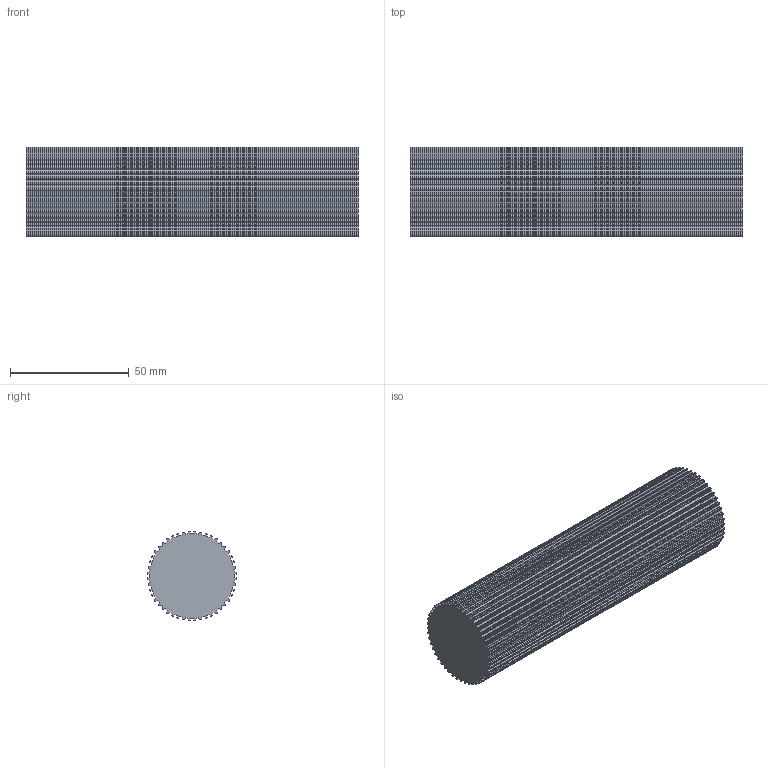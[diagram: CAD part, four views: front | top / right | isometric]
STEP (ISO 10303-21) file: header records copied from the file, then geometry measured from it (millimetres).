
FILE_DESCRIPTION( ( 'STEP AP214' ), '1' );
FILE_NAME( 'C:/Users/StangenbergN/Documents/CAD_Step/1/16094800.stp', '2019-07-25T19:42:28', ( '' ), ( '' ), ' ', 'PARTsolutions', ' ' );
FILE_SCHEMA( ( 'AUTOMOTIVE_DESIGN { 1 0 10303 214 1 1 1 1 }' ) );
Length unit declared in the file: millimetre
Products named in the file (1): _16094800
Bounding box: 140 x 37.63 x 37.63 mm (x, y, z)
Volume: 146333 mm3; surface area: 26553.7 mm2
Topology: 1 solids, 1 shells, 386 faces, 1152 edges, 768 vertices
Faces by surface type: cylinder 240, plane 146
Entity records: 16280 total; most frequent: DIRECTION 2406, CARTESIAN_POINT 2307, ORIENTED_EDGE 2304, EDGE_CURVE 1152, AXIS2_PLACEMENT_3D 867, VERTEX_POINT 768, LINE 672, VECTOR 672
